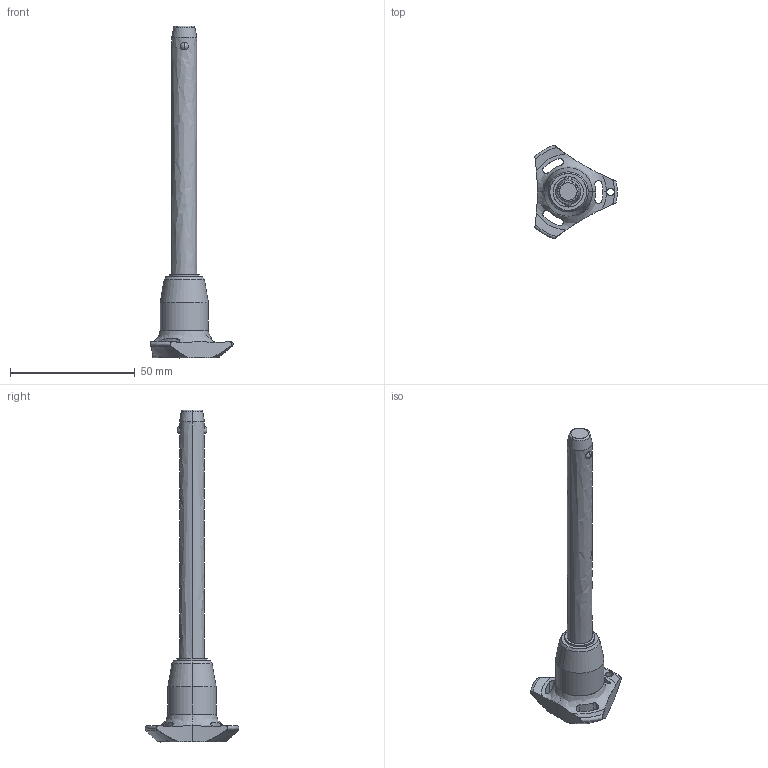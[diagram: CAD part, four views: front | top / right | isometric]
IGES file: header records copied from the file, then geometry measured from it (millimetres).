
Start section: SolidWorks IGES file using analytic representation for surfaces
Global section: file name: C:\Users\ianosborn\Desktop\QR1714_v2\QR1714_v2_20251112_IGES\QR1714.M10-090-S.igs; native system: SolidWorks 2019; preprocessor: SolidWorks 2019; author: IanOsborn; date: 251112.101048; units: millimetre
Bounding box: 33 x 37.51 x 132.9 mm (x, y, z)
Surface area: 6991.9 mm2 (no closed solid volume)
Topology: 0 solids, 0 shells, 65 faces, 1282 edges, 1278 vertices
Faces by surface type: revolution 50, bspline 15
